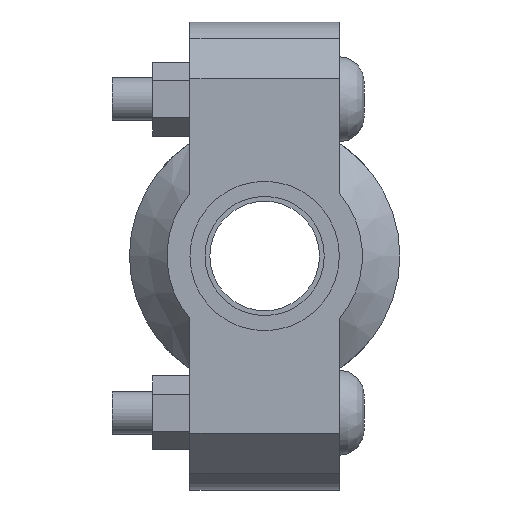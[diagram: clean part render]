
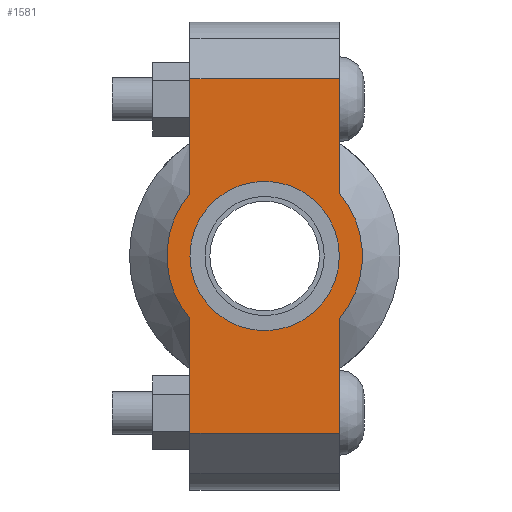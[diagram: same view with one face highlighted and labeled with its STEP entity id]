
A CAD part, left-side view. The second image highlights one B-rep face of the part: STEP entity #1581.
In plain terms, the highlighted planar face has unit normal (-1, 0, 0) as drawn and (0, 0, 1) by its records, which use the part's own axes.
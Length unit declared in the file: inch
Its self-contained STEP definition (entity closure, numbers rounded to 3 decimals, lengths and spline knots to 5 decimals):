
#136=LINE('',#2733,#233);
#151=LINE('',#2792,#248);
#159=LINE('',#2822,#256);
#161=LINE('',#2825,#258);
#162=LINE('',#2830,#259);
#163=LINE('',#2831,#260);
#233=VECTOR('',#2229,0.3937);
#248=VECTOR('',#2264,0.3937);
#256=VECTOR('',#2284,0.3937);
#258=VECTOR('',#2288,0.3937);
#259=VECTOR('',#2293,0.3937);
#260=VECTOR('',#2294,0.3937);
#324=FACE_BOUND('',#501,.T.);
#392=FACE_OUTER_BOUND('',#500,.T.);
#500=EDGE_LOOP('',(#1282,#1283,#1284,#1285,#1286,#1287,#1288,#1289));
#501=EDGE_LOOP('',(#1290));
#583=CIRCLE('',#1809,0.6575);
#607=CIRCLE('',#1861,0.86);
#608=CIRCLE('',#1862,0.86);
#679=VERTEX_POINT('',#2559);
#720=VERTEX_POINT('',#2730);
#721=VERTEX_POINT('',#2732);
#742=VERTEX_POINT('',#2787);
#743=VERTEX_POINT('',#2791);
#752=VERTEX_POINT('',#2817);
#753=VERTEX_POINT('',#2821);
#754=VERTEX_POINT('',#2827);
#755=VERTEX_POINT('',#2829);
#843=EDGE_CURVE('',#679,#679,#583,.T.);
#900=EDGE_CURVE('',#721,#720,#136,.T.);
#925=EDGE_CURVE('',#743,#742,#151,.T.);
#938=EDGE_CURVE('',#753,#752,#159,.T.);
#940=EDGE_CURVE('',#753,#720,#161,.T.);
#941=EDGE_CURVE('',#752,#754,#607,.T.);
#942=EDGE_CURVE('',#754,#755,#162,.T.);
#943=EDGE_CURVE('',#743,#755,#163,.T.);
#944=EDGE_CURVE('',#742,#721,#608,.T.);
#1282=ORIENTED_EDGE('',*,*,#940,.F.);
#1283=ORIENTED_EDGE('',*,*,#938,.T.);
#1284=ORIENTED_EDGE('',*,*,#941,.T.);
#1285=ORIENTED_EDGE('',*,*,#942,.T.);
#1286=ORIENTED_EDGE('',*,*,#943,.F.);
#1287=ORIENTED_EDGE('',*,*,#925,.T.);
#1288=ORIENTED_EDGE('',*,*,#944,.T.);
#1289=ORIENTED_EDGE('',*,*,#900,.T.);
#1290=ORIENTED_EDGE('',*,*,#843,.T.);
#1421=PLANE('',#1860);
#1581=ADVANCED_FACE('',(#392,#324),#1421,.T.);
#1809=AXIS2_PLACEMENT_3D('',#2561,#2119,#2120);
#1860=AXIS2_PLACEMENT_3D('',#2826,#2289,#2290);
#1861=AXIS2_PLACEMENT_3D('',#2828,#2291,#2292);
#1862=AXIS2_PLACEMENT_3D('',#2832,#2295,#2296);
#2119=DIRECTION('center_axis',(0.,0.,-1.));
#2120=DIRECTION('ref_axis',(-1.,0.,0.));
#2229=DIRECTION('',(-1.,0.,0.));
#2264=DIRECTION('',(-1.,0.,0.));
#2284=DIRECTION('',(1.,0.,0.));
#2288=DIRECTION('',(0.,1.,0.));
#2289=DIRECTION('center_axis',(0.,0.,1.));
#2290=DIRECTION('ref_axis',(1.,0.,0.));
#2291=DIRECTION('center_axis',(0.,0.,1.));
#2292=DIRECTION('ref_axis',(-1.,0.,0.));
#2293=DIRECTION('',(1.,0.,0.));
#2294=DIRECTION('',(0.,-1.,0.));
#2295=DIRECTION('center_axis',(0.,0.,1.));
#2296=DIRECTION('ref_axis',(-1.,0.,0.));
#2559=CARTESIAN_POINT('',(0.6575,0.,0.875));
#2561=CARTESIAN_POINT('Origin',(0.,0.,0.875));
#2730=CARTESIAN_POINT('',(-1.56,0.6575,0.875));
#2732=CARTESIAN_POINT('',(-0.55434,0.6575,0.875));
#2733=CARTESIAN_POINT('',(2.06,0.6575,0.875));
#2787=CARTESIAN_POINT('',(0.55434,0.6575,0.875));
#2791=CARTESIAN_POINT('',(1.56,0.6575,0.875));
#2792=CARTESIAN_POINT('',(2.06,0.6575,0.875));
#2817=CARTESIAN_POINT('',(-0.55434,-0.6575,0.875));
#2821=CARTESIAN_POINT('',(-1.56,-0.6575,0.875));
#2822=CARTESIAN_POINT('',(-2.06,-0.6575,0.875));
#2825=CARTESIAN_POINT('',(-1.56,0.32875,0.875));
#2826=CARTESIAN_POINT('Origin',(0.,0.,
0.875));
#2827=CARTESIAN_POINT('',(0.55434,-0.6575,0.875));
#2828=CARTESIAN_POINT('Origin',(0.,0.,0.875));
#2829=CARTESIAN_POINT('',(1.56,-0.6575,0.875));
#2830=CARTESIAN_POINT('',(-2.06,-0.6575,0.875));
#2831=CARTESIAN_POINT('',(1.56,-0.32875,0.875));
#2832=CARTESIAN_POINT('Origin',(0.,0.,0.875));
